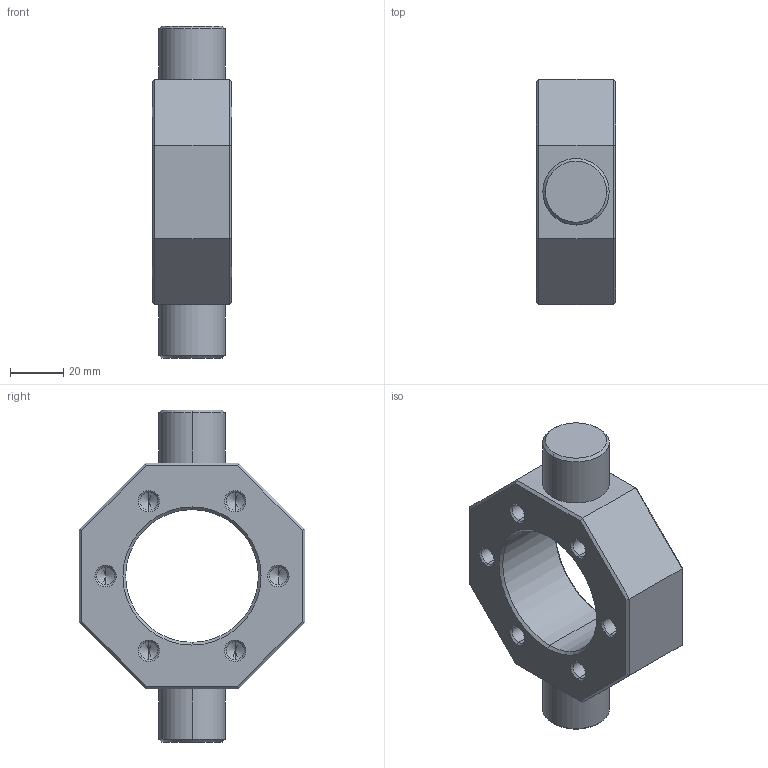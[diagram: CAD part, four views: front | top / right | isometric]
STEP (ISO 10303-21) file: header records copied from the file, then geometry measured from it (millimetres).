
FILE_DESCRIPTION (( 'STEP AP214' ), '1' );
FILE_NAME ('LB-KA-50.STEP', '2025-04-08T09:39:02', ( '' ), ( '' ), 'SwSTEP 2.0', 'SolidWorks 2023', '' );
FILE_SCHEMA (( 'AUTOMOTIVE_DESIGN' ));
Length unit declared in the file: millimetre
Products named in the file (1): LB-KA-50
Bounding box: 30 x 85 x 125 mm (x, y, z)
Volume: 133551.6 mm3; surface area: 27665.8 mm2
Topology: 1 solids, 1 shells, 114 faces, 258 edges, 136 vertices
Faces by surface type: cone 56, cylinder 30, plane 28
Entity records: 2977 total; most frequent: DIRECTION 556, CARTESIAN_POINT 485, ORIENTED_EDGE 468, EDGE_CURVE 234, AXIS2_PLACEMENT_3D 207, VECTOR 142, LINE 142, VERTEX_POINT 136
